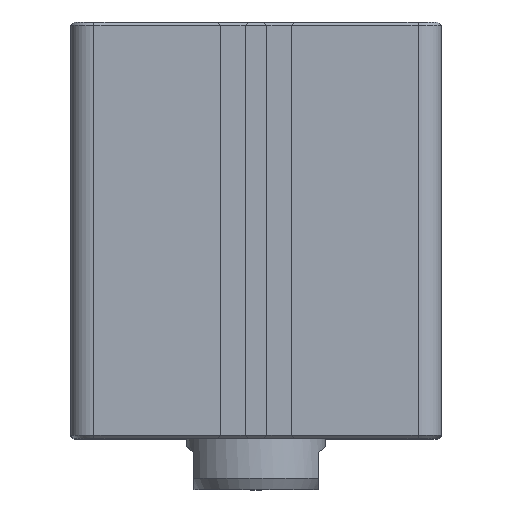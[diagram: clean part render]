
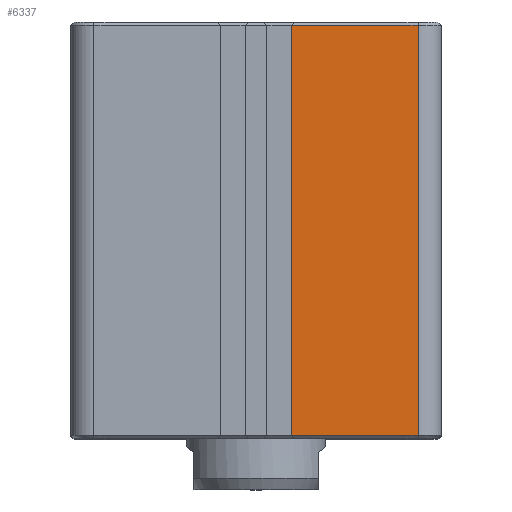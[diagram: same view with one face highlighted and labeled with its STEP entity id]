
A CAD part, top view. The second image highlights one B-rep face of the part: STEP entity #6337.
In plain terms, the highlighted planar face has unit normal (0, 0, 1).
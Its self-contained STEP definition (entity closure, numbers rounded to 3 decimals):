
#231=PLANE('',#6663);
#495=LINE('',#9283,#897);
#498=LINE('',#9289,#900);
#499=LINE('',#9292,#901);
#500=LINE('',#9293,#902);
#897=VECTOR('',#7276,1000.);
#900=VECTOR('',#7281,1000.);
#901=VECTOR('',#7282,1000.);
#902=VECTOR('',#7283,1000.);
#1653=ORIENTED_EDGE('',*,*,#2688,.F.);
#1654=ORIENTED_EDGE('',*,*,#2689,.T.);
#1655=ORIENTED_EDGE('',*,*,#2685,.T.);
#1656=ORIENTED_EDGE('',*,*,#2690,.T.);
#2685=EDGE_CURVE('',#3229,#3230,#495,.T.);
#2688=EDGE_CURVE('',#3231,#3232,#498,.T.);
#2689=EDGE_CURVE('',#3231,#3229,#499,.T.);
#2690=EDGE_CURVE('',#3230,#3232,#500,.T.);
#3229=VERTEX_POINT('',#9284);
#3230=VERTEX_POINT('',#9285);
#3231=VERTEX_POINT('',#9290);
#3232=VERTEX_POINT('',#9291);
#3643=EDGE_LOOP('',(#1653,#1654,#1655,#1656));
#3992=FACE_BOUND('',#3643,.T.);
#6337=ADVANCED_FACE('',(#3992),#231,.T.);
#6663=AXIS2_PLACEMENT_3D('',#9288,#7279,#7280);
#7276=DIRECTION('',(0.,-1.,0.));
#7279=DIRECTION('',(0.,0.,1.));
#7280=DIRECTION('',(1.,0.,0.));
#7281=DIRECTION('',(0.,-1.,0.));
#7282=DIRECTION('',(-1.,0.,0.));
#7283=DIRECTION('',(1.,0.,0.));
#9283=CARTESIAN_POINT('',(7.65,70.,40.));
#9284=CARTESIAN_POINT('',(7.65,89.3,40.));
#9285=CARTESIAN_POINT('',(7.65,0.7,40.));
#9288=CARTESIAN_POINT('',(35.,70.,40.));
#9289=CARTESIAN_POINT('',(35.,70.,40.));
#9290=CARTESIAN_POINT('',(35.,89.3,40.));
#9291=CARTESIAN_POINT('',(35.,0.7,40.));
#9292=CARTESIAN_POINT('',(35.,89.3,40.));
#9293=CARTESIAN_POINT('',(35.,0.7,40.));
